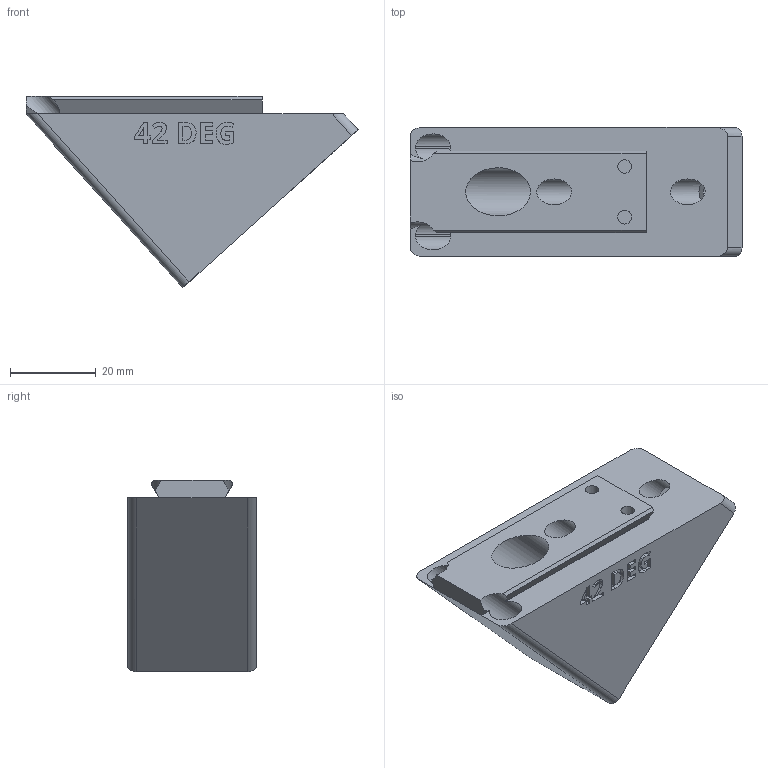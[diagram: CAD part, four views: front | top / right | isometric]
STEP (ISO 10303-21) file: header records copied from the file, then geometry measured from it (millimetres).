
FILE_DESCRIPTION(/* description */ ('STEP AP242 Edition 2','CAx-IF Rec.Pracs.---Representation and Presentation of Product Manufacturing Information (PMI)---4.0---2014-10-13','CAx-IF Rec.Pracs.---3D Tessellated Geometry---0.4---2014-09-14','2;1','CAx-IF Rec.Pracs.---User Defined Attributes---1.5---2016-08-15'),/* implementation_level */ '2;1');
FILE_NAME(/* name */ 'Camera Wedges - CAMERA MOUNTING WEDGE, POS, 42 DEG',/* time_stamp */ '2026-07-08T20:40:30Z',/* author */ (''),/* organization */ (''),/* preprocessor_version */ 'ST-DEVELOPER v20',/* originating_system */ 'ONSHAPE BY PTC INC, 1.217',/* authorisation */ ' ');
FILE_SCHEMA (('AP242_MANAGED_MODEL_BASED_3D_ENGINEERING_MIM_LF { 1 0 10303 442 3 1 4 }'));
Length unit declared in the file: metre
Products named in the file (1): CAMERA MOUNTING WEDGE, POS, 42 DEG
Bounding box: 77.36 x 30 x 44.62 mm (x, y, z)
Volume: 43703.3 mm3; surface area: 14048 mm2
Topology: 1 solids, 1 shells, 259 faces, 712 edges, 475 vertices
Faces by surface type: plane 157, cylinder 58, bspline 44
Full cylindrical faces by diameter (mm): 3.2 x4, 6 x2, 6.4 x1, 11.2 x1
Entity records: 8333 total; most frequent: CARTESIAN_POINT 1917, ORIENTED_EDGE 1402, DIRECTION 1173, EDGE_CURVE 701, LINE 485, VECTOR 485, VERTEX_POINT 472, AXIS2_PLACEMENT_3D 344
